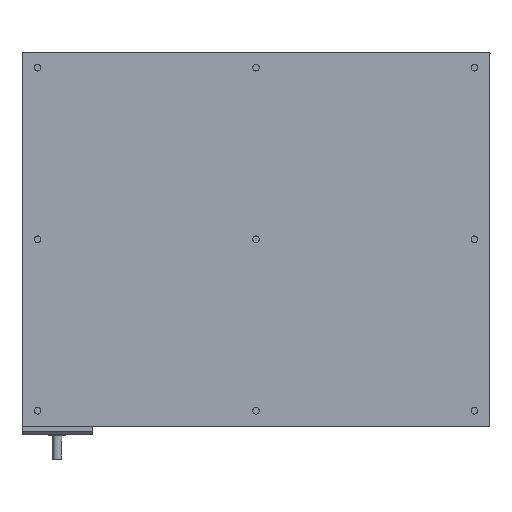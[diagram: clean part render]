
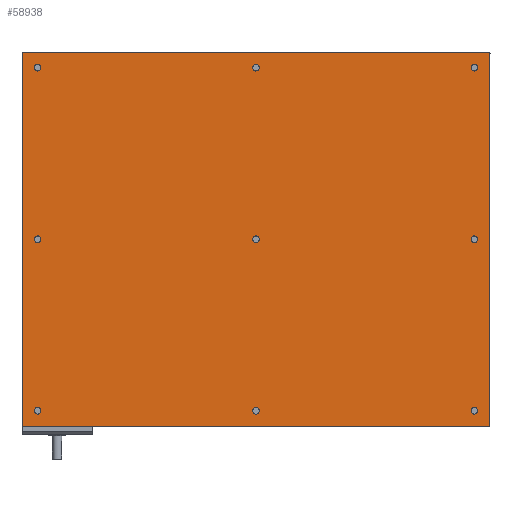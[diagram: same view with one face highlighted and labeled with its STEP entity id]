
A CAD part, front view. The second image highlights one B-rep face of the part: STEP entity #58938.
In plain terms, the highlighted planar face has unit normal (0, -1, 0).
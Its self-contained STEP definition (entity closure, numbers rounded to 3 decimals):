
#3348=FACE_BOUND('',#7463,.T.);
#3349=FACE_BOUND('',#7464,.T.);
#3350=FACE_BOUND('',#7465,.T.);
#3351=FACE_BOUND('',#7466,.T.);
#3352=FACE_BOUND('',#7467,.T.);
#3353=FACE_BOUND('',#7468,.T.);
#3354=FACE_BOUND('',#7469,.T.);
#3355=FACE_BOUND('',#7470,.T.);
#3356=FACE_BOUND('',#7471,.T.);
#4205=FACE_OUTER_BOUND('',#7462,.T.);
#7462=EDGE_LOOP('',(#41990,#41991,#41992,#41993));
#7463=EDGE_LOOP('',(#41994));
#7464=EDGE_LOOP('',(#41995));
#7465=EDGE_LOOP('',(#41996));
#7466=EDGE_LOOP('',(#41997));
#7467=EDGE_LOOP('',(#41998));
#7468=EDGE_LOOP('',(#41999));
#7469=EDGE_LOOP('',(#42000));
#7470=EDGE_LOOP('',(#42001));
#7471=EDGE_LOOP('',(#42002));
#10689=CIRCLE('',#64335,2.15);
#10691=CIRCLE('',#64338,2.15);
#10693=CIRCLE('',#64341,2.15);
#10695=CIRCLE('',#64344,2.15);
#10697=CIRCLE('',#64347,2.15);
#10699=CIRCLE('',#64350,2.15);
#10701=CIRCLE('',#64353,2.15);
#10703=CIRCLE('',#64356,2.15);
#10705=CIRCLE('',#64359,2.15);
#12521=LINE('',#87059,#19558);
#12525=LINE('',#87067,#19562);
#12528=LINE('',#87073,#19565);
#12531=LINE('',#87078,#19568);
#19558=VECTOR('',#70767,10.);
#19562=VECTOR('',#70773,10.);
#19565=VECTOR('',#70778,10.);
#19568=VECTOR('',#70783,10.);
#26355=VERTEX_POINT('',#87003);
#26357=VERTEX_POINT('',#87009);
#26359=VERTEX_POINT('',#87015);
#26361=VERTEX_POINT('',#87021);
#26363=VERTEX_POINT('',#87027);
#26365=VERTEX_POINT('',#87033);
#26367=VERTEX_POINT('',#87039);
#26369=VERTEX_POINT('',#87045);
#26371=VERTEX_POINT('',#87051);
#26373=VERTEX_POINT('',#87057);
#26374=VERTEX_POINT('',#87058);
#26377=VERTEX_POINT('',#87066);
#26379=VERTEX_POINT('',#87072);
#32199=EDGE_CURVE('',#26355,#26355,#10689,.T.);
#32202=EDGE_CURVE('',#26357,#26357,#10691,.T.);
#32205=EDGE_CURVE('',#26359,#26359,#10693,.T.);
#32208=EDGE_CURVE('',#26361,#26361,#10695,.T.);
#32211=EDGE_CURVE('',#26363,#26363,#10697,.T.);
#32214=EDGE_CURVE('',#26365,#26365,#10699,.T.);
#32217=EDGE_CURVE('',#26367,#26367,#10701,.T.);
#32220=EDGE_CURVE('',#26369,#26369,#10703,.T.);
#32223=EDGE_CURVE('',#26371,#26371,#10705,.T.);
#32226=EDGE_CURVE('',#26373,#26374,#12521,.T.);
#32230=EDGE_CURVE('',#26377,#26373,#12525,.T.);
#32233=EDGE_CURVE('',#26379,#26377,#12528,.T.);
#32236=EDGE_CURVE('',#26374,#26379,#12531,.T.);
#41990=ORIENTED_EDGE('',*,*,#32236,.F.);
#41991=ORIENTED_EDGE('',*,*,#32226,.F.);
#41992=ORIENTED_EDGE('',*,*,#32230,.F.);
#41993=ORIENTED_EDGE('',*,*,#32233,.F.);
#41994=ORIENTED_EDGE('',*,*,#32199,.T.);
#41995=ORIENTED_EDGE('',*,*,#32202,.T.);
#41996=ORIENTED_EDGE('',*,*,#32205,.T.);
#41997=ORIENTED_EDGE('',*,*,#32208,.T.);
#41998=ORIENTED_EDGE('',*,*,#32211,.T.);
#41999=ORIENTED_EDGE('',*,*,#32214,.T.);
#42000=ORIENTED_EDGE('',*,*,#32217,.T.);
#42001=ORIENTED_EDGE('',*,*,#32220,.T.);
#42002=ORIENTED_EDGE('',*,*,#32223,.T.);
#56186=PLANE('',#64366);
#58938=ADVANCED_FACE('',(#4205,#3348,#3349,#3350,#3351,#3352,#3353,#3354,
#3355,#3356),#56186,.F.);
#64335=AXIS2_PLACEMENT_3D('',#87004,#70704,#70705);
#64338=AXIS2_PLACEMENT_3D('',#87010,#70711,#70712);
#64341=AXIS2_PLACEMENT_3D('',#87016,#70718,#70719);
#64344=AXIS2_PLACEMENT_3D('',#87022,#70725,#70726);
#64347=AXIS2_PLACEMENT_3D('',#87028,#70732,#70733);
#64350=AXIS2_PLACEMENT_3D('',#87034,#70739,#70740);
#64353=AXIS2_PLACEMENT_3D('',#87040,#70746,#70747);
#64356=AXIS2_PLACEMENT_3D('',#87046,#70753,#70754);
#64359=AXIS2_PLACEMENT_3D('',#87052,#70760,#70761);
#64366=AXIS2_PLACEMENT_3D('',#87081,#70787,#70788);
#70704=DIRECTION('center_axis',(0.,1.,0.));
#70705=DIRECTION('ref_axis',(1.,0.,0.));
#70711=DIRECTION('center_axis',(0.,1.,0.));
#70712=DIRECTION('ref_axis',(1.,0.,0.));
#70718=DIRECTION('center_axis',(0.,1.,0.));
#70719=DIRECTION('ref_axis',(1.,0.,0.));
#70725=DIRECTION('center_axis',(0.,1.,0.));
#70726=DIRECTION('ref_axis',(1.,0.,0.));
#70732=DIRECTION('center_axis',(0.,1.,0.));
#70733=DIRECTION('ref_axis',(1.,0.,0.));
#70739=DIRECTION('center_axis',(0.,1.,0.));
#70740=DIRECTION('ref_axis',(1.,0.,0.));
#70746=DIRECTION('center_axis',(0.,1.,0.));
#70747=DIRECTION('ref_axis',(1.,0.,0.));
#70753=DIRECTION('center_axis',(0.,1.,0.));
#70754=DIRECTION('ref_axis',(1.,0.,0.));
#70760=DIRECTION('center_axis',(0.,1.,0.));
#70761=DIRECTION('ref_axis',(1.,0.,0.));
#70767=DIRECTION('',(1.,0.,0.));
#70773=DIRECTION('',(0.,0.,1.));
#70778=DIRECTION('',(-1.,0.,0.));
#70783=DIRECTION('',(0.,0.,-1.));
#70787=DIRECTION('center_axis',(0.,1.,0.));
#70788=DIRECTION('ref_axis',(0.,0.,1.));
#87003=CARTESIAN_POINT('',(-2.15,0.,140.));
#87004=CARTESIAN_POINT('Origin',(0.,0.,140.));
#87009=CARTESIAN_POINT('',(-112.15,0.,-140.));
#87010=CARTESIAN_POINT('Origin',(-110.,0.,-140.));
#87015=CARTESIAN_POINT('',(-112.15,0.,0.));
#87016=CARTESIAN_POINT('Origin',(-110.,0.,0.));
#87021=CARTESIAN_POINT('',(-112.15,0.,140.));
#87022=CARTESIAN_POINT('Origin',(-110.,0.,140.));
#87027=CARTESIAN_POINT('',(107.85,0.,140.));
#87028=CARTESIAN_POINT('Origin',(110.,0.,140.));
#87033=CARTESIAN_POINT('',(107.85,0.,0.));
#87034=CARTESIAN_POINT('Origin',(110.,0.,0.));
#87039=CARTESIAN_POINT('',(-2.15,0.,0.));
#87040=CARTESIAN_POINT('Origin',(0.,0.,0.));
#87045=CARTESIAN_POINT('',(-2.15,0.,-140.));
#87046=CARTESIAN_POINT('Origin',(0.,0.,-140.));
#87051=CARTESIAN_POINT('',(107.85,0.,-140.));
#87052=CARTESIAN_POINT('Origin',(110.,0.,-140.));
#87057=CARTESIAN_POINT('',(-120.,0.,150.));
#87058=CARTESIAN_POINT('',(120.,0.,150.));
#87059=CARTESIAN_POINT('',(-120.,0.,150.));
#87066=CARTESIAN_POINT('',(-120.,0.,-150.));
#87067=CARTESIAN_POINT('',(-120.,0.,-150.));
#87072=CARTESIAN_POINT('',(120.,0.,-150.));
#87073=CARTESIAN_POINT('',(120.,0.,-150.));
#87078=CARTESIAN_POINT('',(120.,0.,150.));
#87081=CARTESIAN_POINT('Origin',(0.,0.,0.));
